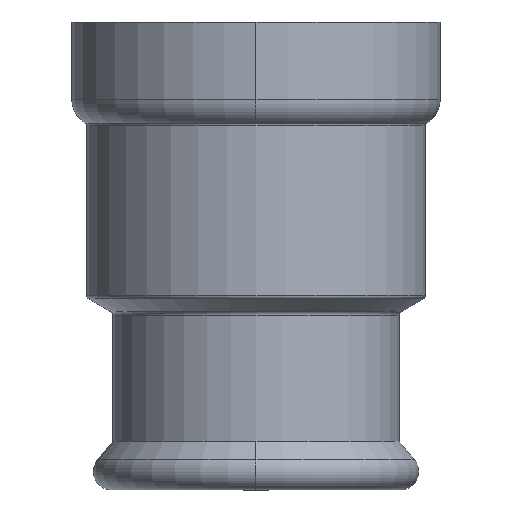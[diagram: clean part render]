
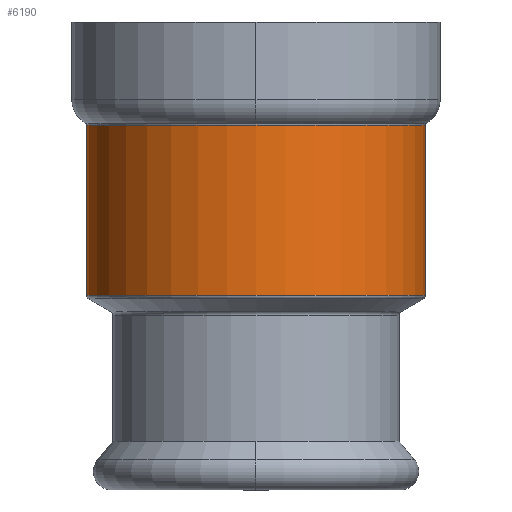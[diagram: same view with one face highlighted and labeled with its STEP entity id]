
A CAD part, left-side view. The second image highlights one B-rep face of the part: STEP entity #6190.
In plain terms, the highlighted cylindrical face has radius 33.95 mm (diameter 67.9 mm), a partial arc.
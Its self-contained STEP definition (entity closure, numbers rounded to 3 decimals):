
#500=CARTESIAN_POINT('',(26.653,56.805,36.976));
#510=DIRECTION('',(0.,0.,1.));
#520=DIRECTION('',(0.,1.,0.));
#530=AXIS2_PLACEMENT_3D('',#500,#510,#520);
#540=CIRCLE('',#530,33.95);
#550=CARTESIAN_POINT('',(-7.297,56.805,36.976));
#560=VERTEX_POINT('',#550);
#570=CARTESIAN_POINT('',(26.653,22.855,36.976));
#580=VERTEX_POINT('',#570);
#590=EDGE_CURVE('',#560,#580,#540,.T.);
#880=CARTESIAN_POINT('',(26.653,90.755,36.976));
#890=VERTEX_POINT('',#880);
#920=EDGE_CURVE('',#890,#560,#540,.T.);
#1780=CARTESIAN_POINT('',(26.653,56.805,71.079));
#1790=DIRECTION('',(0.,0.,1.));
#1800=DIRECTION('',(0.,1.,0.));
#1810=AXIS2_PLACEMENT_3D('',#1780,#1790,#1800);
#1820=CIRCLE('',#1810,33.95);
#1850=CARTESIAN_POINT('',(26.653,90.755,71.079));
#1860=VERTEX_POINT('',#1850);
#1890=CARTESIAN_POINT('',(26.653,90.755,71.28));
#1900=DIRECTION('',(0.,0.,-1.));
#1910=VECTOR('',#1900,1.);
#1920=LINE('',#1890,#1910);
#1930=EDGE_CURVE('',#1860,#890,#1920,.T.);
#1970=CARTESIAN_POINT('',(26.653,22.855,71.28));
#1980=DIRECTION('',(0.,0.,-1.));
#1990=VECTOR('',#1980,1.);
#2000=LINE('',#1970,#1990);
#2010=CARTESIAN_POINT('',(26.653,22.855,71.079));
#2020=VERTEX_POINT('',#2010);
#2030=EDGE_CURVE('',#2020,#580,#2000,.T.);
#6060=CARTESIAN_POINT('',(26.653,56.805,71.28));
#6070=DIRECTION('',(0.,0.,-1.));
#6080=DIRECTION('',(0.,1.,0.));
#6090=AXIS2_PLACEMENT_3D('',#6060,#6070,#6080);
#6100=CYLINDRICAL_SURFACE('',#6090,33.95);
#6110=ORIENTED_EDGE('',*,*,#1930,.T.);
#6120=EDGE_CURVE('',#1860,#2020,#1820,.T.);
#6130=ORIENTED_EDGE('',*,*,#6120,.F.);
#6140=ORIENTED_EDGE('',*,*,#2030,.F.);
#6150=ORIENTED_EDGE('',*,*,#590,.T.);
#6160=ORIENTED_EDGE('',*,*,#920,.T.);
#6170=EDGE_LOOP('',(#6160,#6150,#6140,#6130,#6110));
#6180=FACE_OUTER_BOUND('',#6170,.T.);
#6190=ADVANCED_FACE('',(#6180),#6100,.T.);
